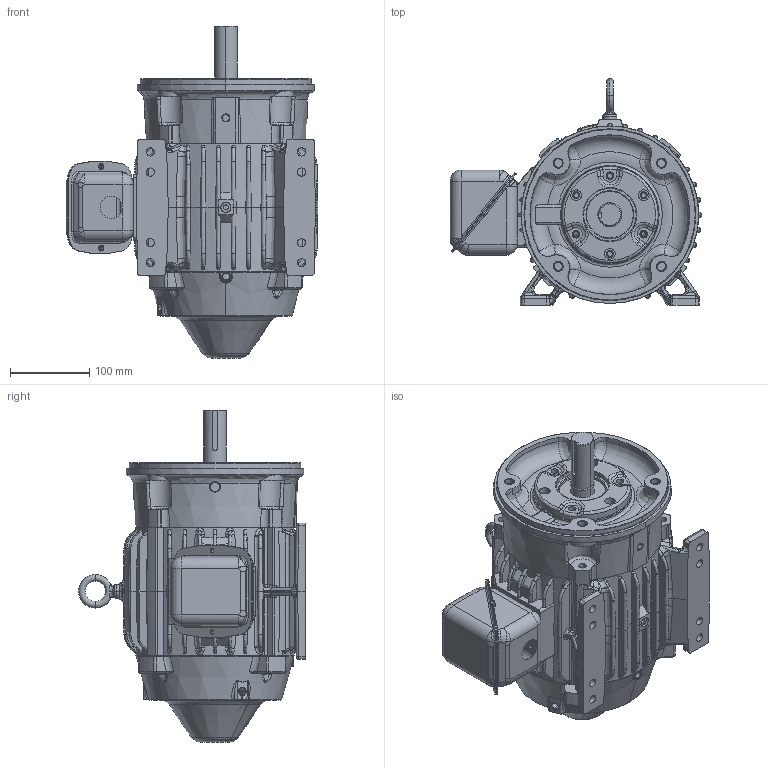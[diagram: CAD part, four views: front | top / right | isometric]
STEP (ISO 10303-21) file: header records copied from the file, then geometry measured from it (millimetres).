
FILE_DESCRIPTION((''),'2;1');
FILE_NAME('180_CFACE_TENV_INVERTER_ASM','2020-01-03T08:39:10',('EMD2341'),('Nidec Motor Corporation'),'CREO PARAMETRIC BY PTC INC, 2019080','CREO PARAMETRIC BY PTC INC, 2019080','');
FILE_SCHEMA(('CONFIG_CONTROL_DESIGN'));
Products named in the file (12): 0950019; 0416220; 0618520; 0651822; 0148690; 2033448; 2033627; 0378767; 0377668; 0133167; 0622701; 180_CFACE_TENV_INVERTER_ASM
Assembly tree (11 placements, depth 2):
  180_CFACE_TENV_INVERTER_ASM
    0950019
    0416220
    0618520
    0651822
    0148690
    2033448
    2033627
    0378767
    0377668
    0133167
    0622701
Bounding box: 317.07 x 285.72 x 418.55 mm (x, y, z)
Volume: 3521045.2 mm3; surface area: 1011822.4 mm2
Topology: 13 solids, 47 shells, 2774 faces, 6927 edges, 4193 vertices
Faces by surface type: bspline 1052, cylinder 641, plane 475, torus 291, cone 214, sphere 101
Entity records: 127506 total; most frequent: CARTESIAN_POINT 69030, ORIENTED_EDGE 13650, DIRECTION 10259, EDGE_CURVE 6891, AXIS2_PLACEMENT_3D 4485, VERTEX_POINT 4193, EDGE_LOOP 2972, B_SPLINE_CURVE_WITH_KNOTS 2872
